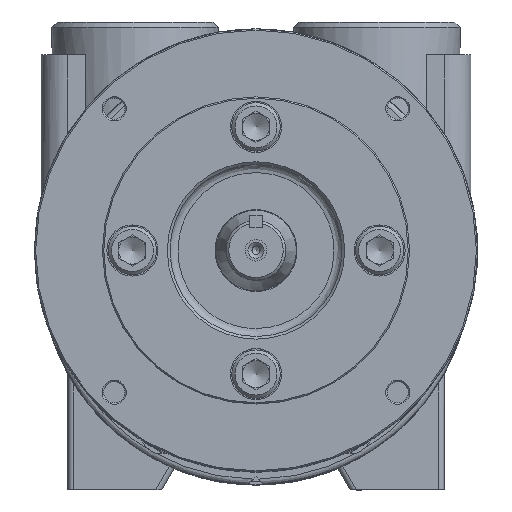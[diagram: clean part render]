
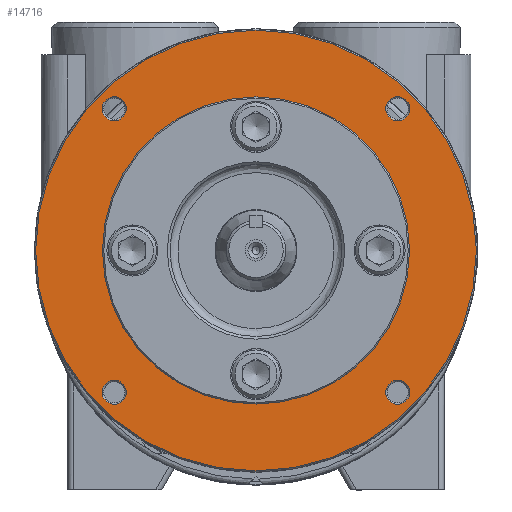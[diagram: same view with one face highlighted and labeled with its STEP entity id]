
A CAD part, top view. The second image highlights one B-rep face of the part: STEP entity #14716.
In plain terms, the highlighted planar face has unit normal (0, 0, 1).
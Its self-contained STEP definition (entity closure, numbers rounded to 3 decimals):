
#113 = CIRCLE ( 'NONE', #26221, 82. ) ;
#408 = AXIS2_PLACEMENT_3D ( 'NONE', #6766, #17265, #3495 ) ;
#879 = EDGE_LOOP ( 'NONE', ( #24602 ) ) ;
#1525 = FACE_BOUND ( 'NONE', #18816, .T. ) ;
#1625 = EDGE_CURVE ( 'NONE', #23437, #23437, #113, .T. ) ;
#1643 = CARTESIAN_POINT ( 'NONE',  ( -48.281, -45.75, 125.95 ) ) ;
#1881 = VERTEX_POINT ( 'NONE', #44794 ) ;
#2985 = DIRECTION ( 'NONE',  ( 1., 0., 0. ) ) ;
#3495 = DIRECTION ( 'NONE',  ( 1., 0., 0. ) ) ;
#4351 = FACE_OUTER_BOUND ( 'NONE', #879, .T. ) ;
#5416 = CARTESIAN_POINT ( 'NONE',  ( 57.219, 59.75, 125.95 ) ) ;
#5765 = EDGE_LOOP ( 'NONE', ( #32022 ) ) ;
#6766 = CARTESIAN_POINT ( 'NONE',  ( 0., 7., 125.95 ) ) ;
#7010 = EDGE_CURVE ( 'NONE', #45302, #45302, #24519, .T. ) ;
#7421 = EDGE_LOOP ( 'NONE', ( #11619 ) ) ;
#7755 = CIRCLE ( 'NONE', #26409, 4.469 ) ;
#7983 = VERTEX_POINT ( 'NONE', #39942 ) ;
#11619 = ORIENTED_EDGE ( 'NONE', *, *, #33520, .T. ) ;
#12033 = DIRECTION ( 'NONE',  ( 1., 0., 0. ) ) ;
#12098 = CARTESIAN_POINT ( 'NONE',  ( 52.75, -45.75, 125.95 ) ) ;
#12498 = DIRECTION ( 'NONE',  ( 1., 0., 0. ) ) ;
#14149 = DIRECTION ( 'NONE',  ( 1., 0., 0. ) ) ;
#14716 = ADVANCED_FACE ( 'NONE', ( #4351, #1525, #29802, #25855, #26080, #44210 ), #40272, .T. ) ;
#15543 = CARTESIAN_POINT ( 'NONE',  ( -82.984, 89.984, 125.95 ) ) ;
#15934 = CARTESIAN_POINT ( 'NONE',  ( -82., 7., 125.95 ) ) ;
#17265 = DIRECTION ( 'NONE',  ( 0., 0., -1. ) ) ;
#18389 = ORIENTED_EDGE ( 'NONE', *, *, #27354, .T. ) ;
#18816 = EDGE_LOOP ( 'NONE', ( #32305 ) ) ;
#21400 = AXIS2_PLACEMENT_3D ( 'NONE', #45236, #24313, #2985 ) ;
#22025 = AXIS2_PLACEMENT_3D ( 'NONE', #12098, #25926, #40115 ) ;
#23437 = VERTEX_POINT ( 'NONE', #15934 ) ;
#24313 = DIRECTION ( 'NONE',  ( 0., 0., -1. ) ) ;
#24519 = CIRCLE ( 'NONE', #30462, 4.469 ) ;
#24602 = ORIENTED_EDGE ( 'NONE', *, *, #1625, .T. ) ;
#25017 = CIRCLE ( 'NONE', #408, 57.15 ) ;
#25855 = FACE_BOUND ( 'NONE', #7421, .T. ) ;
#25888 = CIRCLE ( 'NONE', #21400, 4.469 ) ;
#25926 = DIRECTION ( 'NONE',  ( 0., 0., -1. ) ) ;
#26080 = FACE_BOUND ( 'NONE', #40679, .T. ) ;
#26221 = AXIS2_PLACEMENT_3D ( 'NONE', #30379, #41553, #45457 ) ;
#26409 = AXIS2_PLACEMENT_3D ( 'NONE', #43547, #30261, #12498 ) ;
#27354 = EDGE_CURVE ( 'NONE', #7983, #7983, #28769, .T. ) ;
#28769 = CIRCLE ( 'NONE', #22025, 4.469 ) ;
#29802 = FACE_BOUND ( 'NONE', #5765, .T. ) ;
#30261 = DIRECTION ( 'NONE',  ( 0., 0., -1. ) ) ;
#30379 = CARTESIAN_POINT ( 'NONE',  ( 0., 7., 125.95 ) ) ;
#30462 = AXIS2_PLACEMENT_3D ( 'NONE', #46101, #43312, #14149 ) ;
#32022 = ORIENTED_EDGE ( 'NONE', *, *, #38656, .T. ) ;
#32305 = ORIENTED_EDGE ( 'NONE', *, *, #36773, .T. ) ;
#33520 = EDGE_CURVE ( 'NONE', #40626, #40626, #7755, .T. ) ;
#36773 = EDGE_CURVE ( 'NONE', #1881, #1881, #25017, .T. ) ;
#38656 = EDGE_CURVE ( 'NONE', #40851, #40851, #25888, .T. ) ;
#39111 = AXIS2_PLACEMENT_3D ( 'NONE', #15543, #43988, #12033 ) ;
#39942 = CARTESIAN_POINT ( 'NONE',  ( 57.219, -45.75, 125.95 ) ) ;
#40115 = DIRECTION ( 'NONE',  ( 1., 0., 0. ) ) ;
#40272 = PLANE ( 'NONE',  #39111 ) ;
#40626 = VERTEX_POINT ( 'NONE', #1643 ) ;
#40679 = EDGE_LOOP ( 'NONE', ( #18389 ) ) ;
#40851 = VERTEX_POINT ( 'NONE', #41318 ) ;
#41318 = CARTESIAN_POINT ( 'NONE',  ( -48.281, 59.75, 125.95 ) ) ;
#41553 = DIRECTION ( 'NONE',  ( 0., 0., 1. ) ) ;
#43312 = DIRECTION ( 'NONE',  ( 0., 0., -1. ) ) ;
#43547 = CARTESIAN_POINT ( 'NONE',  ( -52.75, -45.75, 125.95 ) ) ;
#43988 = DIRECTION ( 'NONE',  ( 0., 0., 1. ) ) ;
#44022 = EDGE_LOOP ( 'NONE', ( #45989 ) ) ;
#44210 = FACE_BOUND ( 'NONE', #44022, .T. ) ;
#44794 = CARTESIAN_POINT ( 'NONE',  ( 57.15, 7., 125.95 ) ) ;
#45236 = CARTESIAN_POINT ( 'NONE',  ( -52.75, 59.75, 125.95 ) ) ;
#45302 = VERTEX_POINT ( 'NONE', #5416 ) ;
#45457 = DIRECTION ( 'NONE',  ( -1., 0., 0. ) ) ;
#45989 = ORIENTED_EDGE ( 'NONE', *, *, #7010, .T. ) ;
#46101 = CARTESIAN_POINT ( 'NONE',  ( 52.75, 59.75, 125.95 ) ) ;
